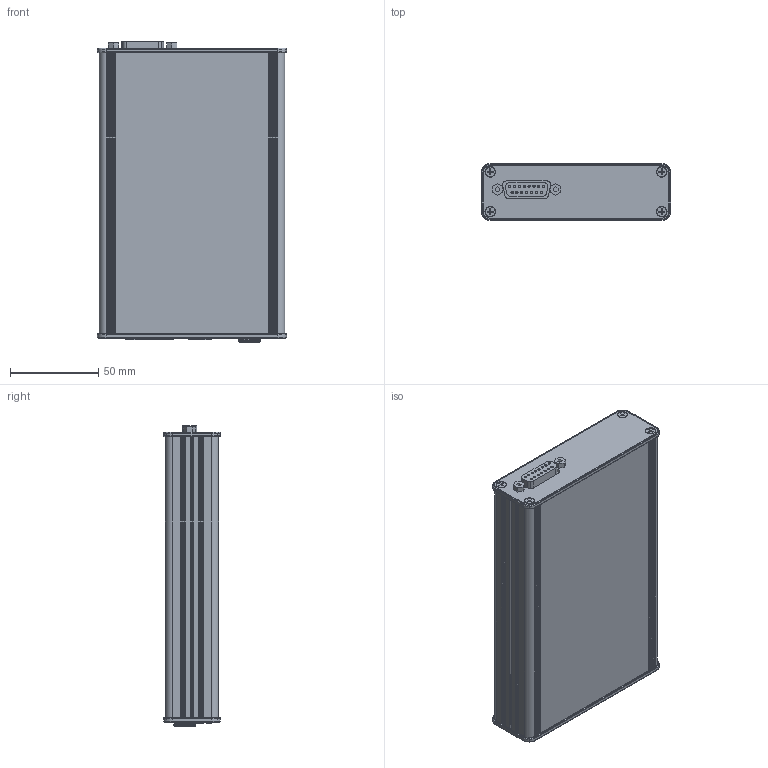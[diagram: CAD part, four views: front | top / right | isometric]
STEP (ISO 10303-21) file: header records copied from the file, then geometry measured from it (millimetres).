
FILE_DESCRIPTION (( 'STEP AP203' ), '1' );
FILE_NAME ('GSV-2MSD-DI_000(b)_K-Modell.STEP', '2023-09-01T06:40:20', ( '' ), ( '' ), 'SwSTEP 2.0', 'SolidWorks 2022', '' );
FILE_SCHEMA (( 'CONFIG_CONTROL_DESIGN' ));
Length unit declared in the file: millimetre
Products named in the file (12): GSV-2MSD-DI_000(b)_K-Modell; ID_3; ID_9; ID_10; ID_6; ID_4; ID_2; ID_7; DisplayDummy; ID_1; ID_5; ID_8
Assembly tree (21 placements, depth 2):
  GSV-2MSD-DI_000(b)_K-Modell
    ID_1
    ID_2
    ID_3
    ID_4
    ID_5  x8
    ID_6  x3
    ID_7
    ID_8
    ID_9  x2
    ID_10
    DisplayDummy
Bounding box: 107 x 32 x 170.1 mm (x, y, z)
Volume: 148646.8 mm3; surface area: 168491.4 mm2
Topology: 22 solids, 22 shells, 2563 faces, 7659 edges, 5857 vertices
Faces by surface type: plane 1371, cylinder 841, cone 208, torus 140, bspline 2, sphere 1
Entity records: 80372 total; most frequent: CARTESIAN_POINT 17764, ORIENTED_EDGE 13302, DIRECTION 11454, EDGE_CURVE 6651, VERTEX_POINT 5239, VECTOR 4500, LINE 4500, AXIS2_PLACEMENT_3D 3477
